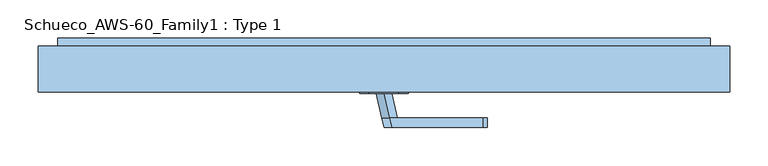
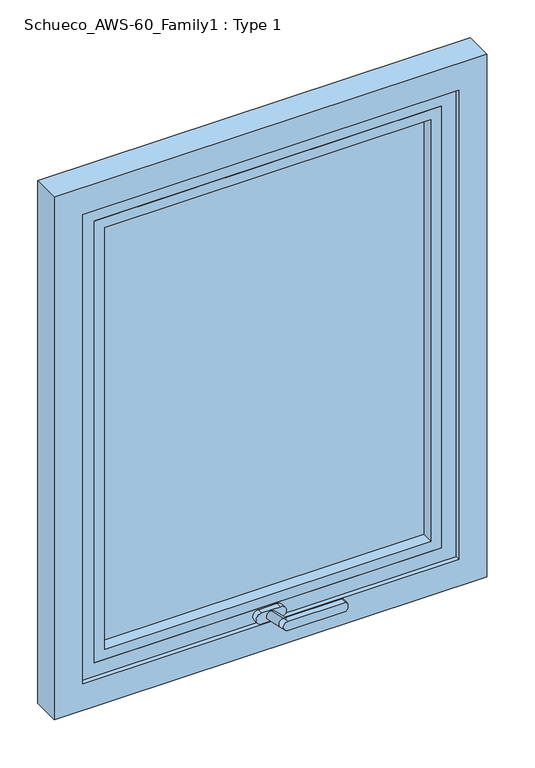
"""IFC4 building model written with IfcOpenShell, lengths in millimetres: window geometry, Schueco_AWS-60_Family1 : Type 1."""

from ifc_helpers import new_model, si_unit, point, frame, frame_2d, origin, place, context, project, spatial, polyline, circle_curve, ellipse_curve, trimmed, segment, composite_curve, outline, extrude, faceted_brep, source, transform, mapped, element, save
from ifc_brep_helpers import plane_surface, extruded_surface, advanced_brep


def schueco_aws_60_family1_type_1_a6c24e02(model_context):
    return source(origin(), model_context, "Body", "SolidModel", [
        advanced_brep(
        [(-0.0585938, -41.9959969, 884.0), (-0.0585938, -41.9959969, 864.0), (7.1590692, -73.4958794, 864.0), (7.1590692, -73.4958794, 884.0), (10.0, -85.9959664, 884.0), (10.0, -85.9959664, 864.0), (129.2154237, -85.9959664, 864.0), (129.2154237, -85.9959664, 884.0), (129.2154237, -73.4958794, 884.0), (129.2154237, -73.4958794, 864.0)],
        [
            (0, 1, circle_curve(frame((-0.0585938, -41.9959969, 874.0), z_axis=(0.0, 1.0, 0.0), x_axis=(0.0, 0.0, 1.0)), 10.0)),
            (1, 0, circle_curve(frame((-0.0585938, -41.9959969, 874.0), z_axis=(0.0, 1.0, 0.0), x_axis=(0.0, 0.0, 1.0)), 10.0)),
            (1, 2),
            (2, 3, circle_curve(frame((7.1590692, -73.4958794, 874.0), z_axis=(0.0, 1.0, 0.0), x_axis=(0.0, 0.0, 1.0)), 10.0)),
            (3, 0),
            (4, 5, circle_curve(frame((10.0, -85.9959664, 874.0), z_axis=(0.0, -1.0, 0.0), x_axis=(0.0, 0.0, 1.0)), 10.0)),
            (5, 6),
            (6, 7, ellipse_curve(frame((129.2154237, -85.9959664, 874.0), z_axis=(0.0, -1.0, 0.0), x_axis=(0.0, 0.0, -1.0)), 10.0, 5.5516623)),
            (7, 4),
            (3, 8),
            (8, 9, ellipse_curve(frame((129.2154237, -73.4958794, 874.0), z_axis=(0.0, 1.0, 0.0), x_axis=(0.0, 0.0, -1.0)), 10.0, 5.5516623)),
            (9, 2),
            (2, 3, circle_curve(frame((7.1590692, -73.4958794, 874.0), z_axis=(0.0, -1.0, 0.0), x_axis=(0.0, 0.0, 1.0)), 10.0)),
            (4, 3),
            (2, 5),
            (9, 6),
            (8, 7),
        ],
        [
            plane_surface(frame((-0.0585938, -41.9959969, 874.0), z_axis=(0.0, 1.0, 0.0), x_axis=(-1.0, 0.0, 0.0))),
            extruded_surface(trimmed(circle_curve(frame((7.1590692, -73.4958794, 874.0), z_axis=(0.0, 1.0, 0.0), x_axis=(0.0, 0.0, 1.0)), 10.0), [point((7.1590692, -73.4958794, 864.0))], [point((7.1590692, -73.4958794, 884.0))], True, "CARTESIAN"), (-7.217663, 31.499882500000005, 0.0), 32.316207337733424),
            plane_surface(frame((69.6077119, -85.9959664, 874.0), z_axis=(0.0, -1.0, 0.0), x_axis=(-1.0, 0.0, 0.0))),
            plane_surface(frame((68.1872464, -73.4958794, 874.0), z_axis=(0.0, 1.0, 0.0), x_axis=(-1.0, 0.0, 0.0))),
            extruded_surface(trimmed(circle_curve(frame((7.1590692, -73.4958794, 874.0), z_axis=(0.0, -1.0, 0.0), x_axis=(0.0, 0.0, 1.0)), 10.0), [point((7.1590692, -73.4958794, 884.0))], [point((7.1590692, -73.4958794, 864.0))], True, "CARTESIAN"), (2.8409307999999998, -12.500086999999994, 0.0), 12.818855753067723),
            plane_surface(frame((68.1872464, -73.4958794, 864.0), z_axis=(0.0, 0.0, -1.0), x_axis=(1.0, 0.0, 0.0))),
            extruded_surface(trimmed(ellipse_curve(frame((129.2154237, -73.4958794, 874.0), z_axis=(0.0, -1.0, 0.0), x_axis=(0.0, 0.0, -1.0)), 10.0, 5.5516623), [point((129.2154237, -73.4958794, 864.0))], [point((129.2154237, -73.4958794, 884.0))], True, "CARTESIAN"), (0.0, -12.500086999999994, 0.0), 12.500086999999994),
            plane_surface(frame((68.1872464, -73.4958794, 884.0), z_axis=(0.0, 0.0, 1.0), x_axis=(-1.0, 0.0, 0.0))),
            extruded_surface(trimmed(circle_curve(frame((7.1590692, -73.4958794, 874.0), z_axis=(0.0, 1.0, 0.0), x_axis=(0.0, 0.0, 1.0)), 10.0), [point((7.1590692, -73.4958794, 884.0))], [point((7.1590692, -73.4958794, 864.0))], True, "CARTESIAN"), (-7.217663, 31.499882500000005, 0.0), 32.316207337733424),
        ],
        [
            (0, [[1, 2]]),
            (1, [[-2, 3, 4, 5]]),
            (2, [[6, 7, 8, 9]]),
            (3, [[10, 11, 12, 13]]),
            (4, [[-6, 14, -4, 15]]),
            (5, [[-7, -15, -12, 16]]),
            (6, [[-8, -16, -11, 17]]),
            (7, [[-9, -17, -10, -14]]),
            (8, [[-1, -5, -13, -3]]),
        ],
    ),
        extrude(outline(composite_curve([segment(trimmed(circle_curve(frame_2d((874.0, 19.5)), 12.0), [point((862.0, 19.5))], [point((886.0, 19.5))], False, "CARTESIAN"), True, "CONTINUOUS"), segment(polyline([(886.0, 19.5), (886.0, -19.5)]), True, "CONTINUOUS"), segment(trimmed(circle_curve(frame_2d((874.0, -19.5)), 12.0), [point((886.0, -19.5))], [point((862.0, -19.5))], False, "CARTESIAN"), True, "CONTINUOUS"), segment(polyline([(862.0, -19.5), (862.0, 19.5)]), True, "CONTINUOUS")], self_intersect=False)), frame((0.0, -41.9959969, 0.0), z_axis=(0.0, 1.0, 0.0), x_axis=(0.0, 0.0, 1.0)), (0.0, 0.0, 1.0), 12.0),
        extrude(outline(polyline([(1861.0, 361.0), (1861.0, -361.0), (889.0, -361.0), (889.0, 361.0), (1861.0, 361.0)]), holes=[polyline([(910.9999983, 339.0000017), (910.9999983, -339.0000017), (1839.0000017, -339.0000017), (1839.0000017, 339.0000017), (910.9999983, 339.0000017)])]), frame((0.0, -29.9959969, 0.0), z_axis=(0.0, 1.0, 0.0), x_axis=(0.0, 0.0, 1.0)), (0.0, 0.0, 1.0), 24.9867085),
        extrude(outline(polyline([(352.9996185, -5.0092884), (-352.9996185, -5.0092884), (-352.9996185, 20.9907116), (352.9996185, 20.9907116), (352.9996185, -5.0092884)])), frame((0.0, 0.0, 897.0003815), z_axis=(0.0, 0.0, 1.0), x_axis=(1.0, 0.0, 0.0)), (0.0, 0.0, 1.0), 955.9992371),
        faceted_brep([(396.0, 20.0, 1896.0), (396.0, -29.9959969, 1896.0), (396.0, -29.9959969, 854.0), (396.0, 20.0, 854.0), (-396.0, -29.9959969, 1896.0), (-396.0, -29.9959969, 854.0), (361.0, -29.9959969, 889.0), (-361.0, -29.9959969, 889.0), (-361.0, -29.9959969, 1861.0), (361.0, -29.9959969, 1861.0), (-396.0, 20.0, 854.0), (425.0, 20.0, 1925.0), (-425.0, 20.0, 1925.0), (-425.0, 20.0, 825.0), (425.0, 20.0, 825.0), (-396.0, 20.0, 1896.0), (425.0, 30.0, 1925.0), (425.0, 30.0, 825.0), (-425.0, 30.0, 825.0), (-425.0, 30.0, 1925.0), (339.0000017, 30.0, 1839.0000017), (-339.0000017, 30.0, 1839.0000017), (-339.0000017, 30.0, 910.9999983), (339.0000017, 30.0, 910.9999983), (352.9996185, 20.9907116, 1852.9996185), (-352.9996185, 20.9907116, 1852.9996185), (-352.9996185, 20.9907116, 897.0003815), (352.9996185, 20.9907116, 897.0003815), (339.0000017, 20.9907116, 910.9999983), (-339.0000017, 20.9907116, 910.9999983), (-339.0000017, 20.9907116, 1839.0000017), (339.0000017, 20.9907116, 1839.0000017), (352.9996185, -5.0092884, 1852.9996185), (352.9996185, -5.0092884, 897.0003815), (-352.9996185, -5.0092884, 897.0003815), (361.0, -5.0092884, 1861.0), (-361.0, -5.0092884, 1861.0), (-361.0, -5.0092884, 889.0), (361.0, -5.0092884, 889.0), (-352.9996185, -5.0092884, 1852.9996185)], [[[0, 1, 2, 3]], [[1, 4, 5, 2], [6, 7, 8, 9]], [[3, 2, 5, 10]], [[11, 12, 13, 14], [3, 10, 15, 0]], [[16, 11, 14, 17]], [[17, 14, 13, 18]], [[17, 18, 19, 16], [20, 21, 22, 23]], [[24, 25, 26, 27], [28, 29, 30, 31]], [[32, 24, 27, 33]], [[33, 27, 26, 34]], [[35, 36, 37, 38], [33, 34, 39, 32]], [[10, 5, 4, 15]], [[18, 13, 12, 19]], [[34, 26, 25, 39]], [[7, 37, 36, 8]], [[6, 38, 37, 7]], [[9, 35, 38, 6]], [[15, 4, 1, 0]], [[19, 12, 11, 16]], [[39, 25, 24, 32]], [[8, 36, 35, 9]], [[29, 22, 21, 30]], [[28, 23, 22, 29]], [[31, 20, 23, 28]], [[30, 21, 20, 31]]]),
        faceted_brep([(-450.0, -40.0, 1950.0), (-450.0, 20.0, 1950.0), (-450.0, 20.0, 800.0), (-450.0, -40.0, 800.0), (450.0, 20.0, 800.0), (450.0, -40.0, 800.0), (-390.9999771, -30.0, 1890.9999771), (-390.9999771, -40.0, 1890.9999771), (-390.9999771, -40.0, 859.0000229), (-390.9999771, -30.0, 859.0000229), (390.9999771, -40.0, 859.0000229), (390.9999771, -30.0, 859.0000229), (-408.0000488, -0.2499974, 1908.0000488), (-408.0000488, -30.0, 1908.0000488), (-408.0000488, -30.0, 841.9999512), (-408.0000488, -0.2499974, 841.9999512), (408.0000488, -30.0, 841.9999512), (408.0000488, -0.2499974, 841.9999512), (-420.0, 20.0, 1920.0), (-420.0, -0.2499974, 1920.0), (-420.0, -0.2499974, 830.0), (-420.0, 20.0, 830.0), (420.0, -0.2499974, 830.0), (420.0, 20.0, 830.0), (450.0, 20.0, 1950.0), (450.0, -40.0, 1950.0), (390.9999771, -40.0, 1890.9999771), (390.9999771, -30.0, 1890.9999771), (408.0000488, -30.0, 1908.0000488), (408.0000488, -0.2499974, 1908.0000488), (420.0, -0.2499974, 1920.0), (420.0, 20.0, 1920.0)], [[[0, 1, 2, 3]], [[3, 2, 4, 5]], [[6, 7, 8, 9]], [[9, 8, 10, 11]], [[12, 13, 14, 15]], [[15, 14, 16, 17]], [[18, 19, 20, 21]], [[21, 20, 22, 23]], [[5, 4, 24, 25]], [[11, 10, 26, 27]], [[17, 16, 28, 29]], [[23, 22, 30, 31]], [[1, 24, 4, 2], [21, 23, 31, 18]], [[3, 5, 25, 0], [7, 26, 10, 8]], [[13, 28, 16, 14], [9, 11, 27, 6]], [[19, 30, 22, 20], [15, 17, 29, 12]], [[25, 24, 1, 0]], [[27, 26, 7, 6]], [[29, 28, 13, 12]], [[31, 30, 19, 18]]]),
    ])


if __name__ == "__main__":
    model = new_model("IFC4")
    model_context = context("Model", 3, world=origin())
    ifc_project = project(units=[si_unit("LENGTHUNIT", "METRE", prefix="MILLI")], contexts=[model_context])
    site = spatial("IfcSite", under=ifc_project)
    building = spatial("IfcBuilding", under=site)
    placement = place(None, origin())
    schueco_aws_60_family1_type_1_shape = schueco_aws_60_family1_type_1_a6c24e02(model_context)
    element("IfcWindow", 1, ObjectType="Schueco_AWS-60_Family1 : Type 1", at=placement, inside=building, context=model_context, shape_type="MappedRepresentation", body=[
        mapped(schueco_aws_60_family1_type_1_shape, transform((0.0, 0.0, 0.0), x_axis=(1.0, 0.0, 0.0), y_axis=(0.0, 1.0, 0.0), z_axis=(0.0, 0.0, 1.0))),
    ])
    save(model, "model.ifc")
